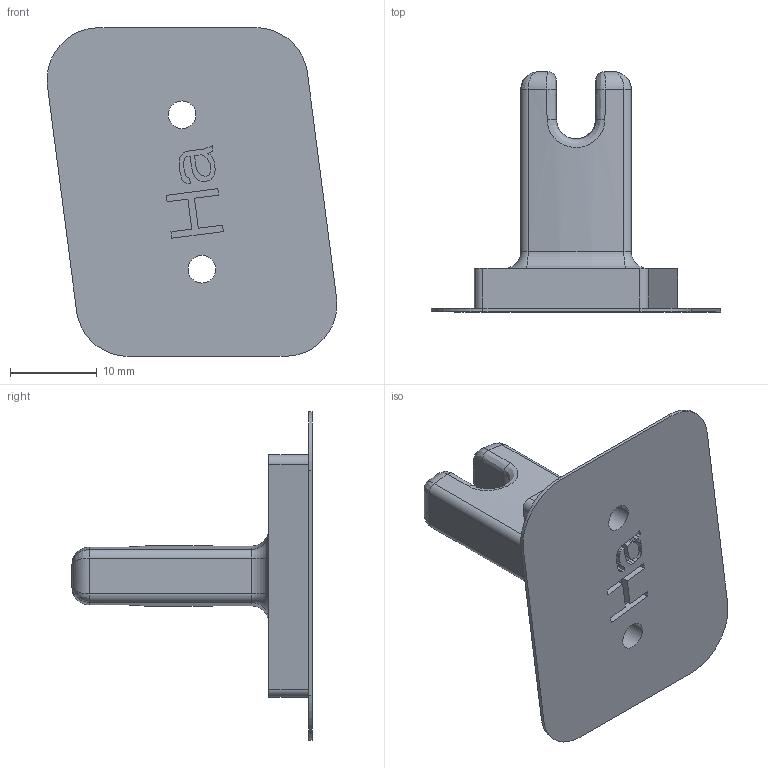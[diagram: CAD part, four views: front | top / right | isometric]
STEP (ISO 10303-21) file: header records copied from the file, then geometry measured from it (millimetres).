
FILE_DESCRIPTION((''),'2;1');
FILE_NAME('0000187331','2024-01-10T08:46:59',('Wyndorps'),(''),'CREO PARAMETRIC BY PTC INC, 2022484','CREO PARAMETRIC BY PTC INC, 2022484','');
FILE_SCHEMA(('CONFIG_CONTROL_DESIGN'));
Length unit declared in the file: millimetre
Products named in the file (1): 0000187331
Bounding box: 33.5 x 27.75 x 38 mm (x, y, z)
Volume: 4579.8 mm3; surface area: 3607.1 mm2
Topology: 1 solids, 1 shells, 137 faces, 354 edges, 224 vertices
Faces by surface type: plane 84, cylinder 25, bspline 14, torus 10, cone 4
Entity records: 5216 total; most frequent: CARTESIAN_POINT 1885, ORIENTED_EDGE 708, DIRECTION 644, EDGE_CURVE 354, VECTOR 254, LINE 254, VERTEX_POINT 224, AXIS2_PLACEMENT_3D 195
